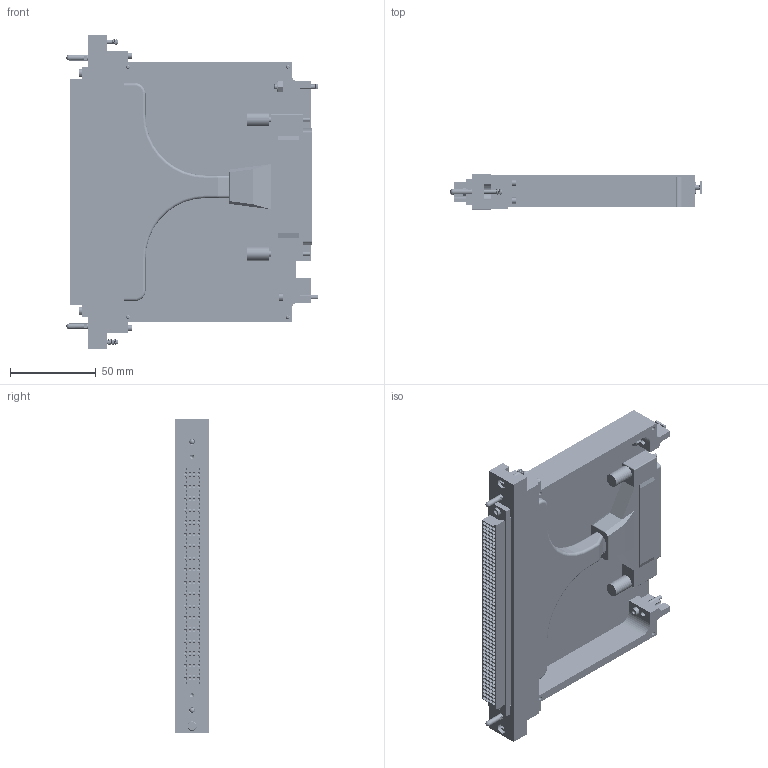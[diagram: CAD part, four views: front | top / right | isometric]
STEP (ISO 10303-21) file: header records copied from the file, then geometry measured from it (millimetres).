
FILE_DESCRIPTION((''),'2;1');
FILE_NAME('C:\Users\davecooper\Desktop\561117-cu.stp','2012-01-24T09:17:44',('davecooper'),(''),'Autodesk Inventor 2011','Autodesk Inventor 2011','');
FILE_SCHEMA(('CONFIG_CONTROL_DESIGN'));
Length unit declared in the file: inch
Products named in the file (1): 561117-cu
Bounding box: 146.43 x 20.07 x 183.26 mm (x, y, z)
Surface area: 156026.3 mm2 (no closed solid volume)
Topology: 0 solids, 48 shells, 8622 faces, 23177 edges, 15043 vertices
Faces by surface type: plane 6354, bspline 1556, cylinder 610, cone 86, torus 10, sphere 6
Full cylindrical faces by diameter (mm): 0.025 x16, 0.127 x1, 1.778 x200, 2.159 x1, 2.184 x20, 2.286 x200, 2.438 x10, 2.5 x1, 2.54 x3, 2.731 x1, 2.845 x3, 2.946 x4, 2.997 x1, 3.099 x2, 3.175 x2, 3.302 x2, 3.556 x6, 3.734 x1, 3.81 x2, 4.5 x1, 4.572 x1, 4.648 x2, 4.763 x2, 4.851 x1, 5.207 x2, 5.537 x2, 5.953 x2, 6.35 x1
Entity records: 281480 total; most frequent: CARTESIAN_POINT 69421, ORIENTED_EDGE 44738, DIRECTION 34575, EDGE_CURVE 22369, VECTOR 17743, LINE 17743, VERTEX_POINT 14786, EDGE_LOOP 10819
